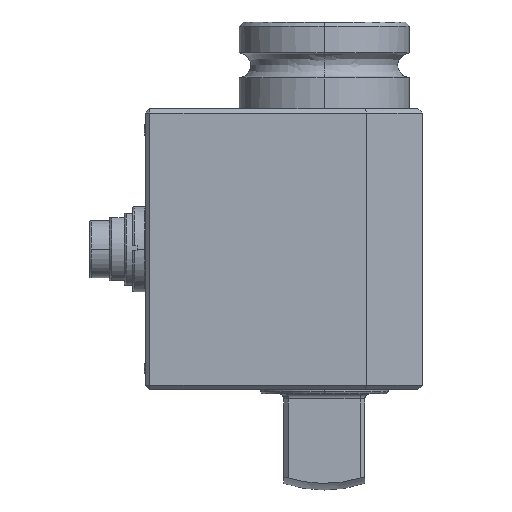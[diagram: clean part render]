
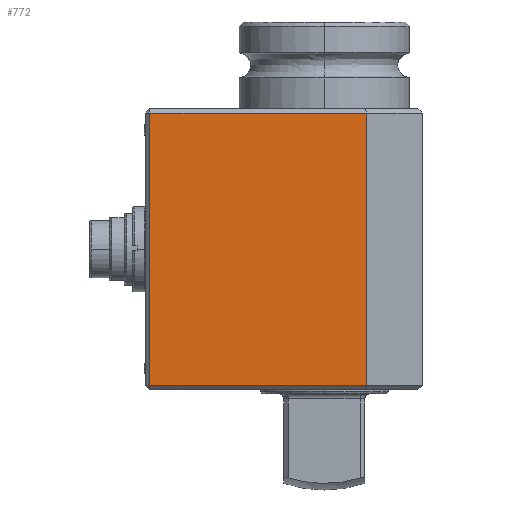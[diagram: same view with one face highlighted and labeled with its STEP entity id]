
A CAD part, left-side view. The second image highlights one B-rep face of the part: STEP entity #772.
In plain terms, the highlighted planar face has unit normal (-1, 0, 0).
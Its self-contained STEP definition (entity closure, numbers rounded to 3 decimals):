
#701 = ORIENTED_EDGE ( 'NONE', *, *, #702, .F. ) ;
#702 = EDGE_CURVE ( 'NONE', #703, #776, #3560, .T. ) ;
#703 = VERTEX_POINT ( 'NONE', #3556 ) ;
#704 = ORIENTED_EDGE ( 'NONE', *, *, #705, .F. ) ;
#705 = EDGE_CURVE ( 'NONE', #896, #703, #3555, .T. ) ;
#759 = ORIENTED_EDGE ( 'NONE', *, *, #902, .F. ) ;
#772 = ADVANCED_FACE ( 'NONE', ( #4150 ), #4149, .F. ) ;
#773 = EDGE_LOOP ( 'NONE', ( #774, #701, #704, #759 ) ) ;
#774 = ORIENTED_EDGE ( 'NONE', *, *, #775, .F. ) ;
#775 = EDGE_CURVE ( 'NONE', #776, #900, #4147, .T. ) ;
#776 = VERTEX_POINT ( 'NONE', #4204 ) ;
#896 = VERTEX_POINT ( 'NONE', #5264 ) ;
#900 = VERTEX_POINT ( 'NONE', #5259 ) ;
#902 = EDGE_CURVE ( 'NONE', #900, #896, #5258, .T. ) ;
#3552 = DIRECTION ( 'NONE',  ( 0., -1., 0. ) ) ;
#3553 = VECTOR ( 'NONE', #3552, 1000. ) ;
#3554 = CARTESIAN_POINT ( 'NONE',  ( -28.752, 39.995, 65. ) ) ;
#3555 = LINE ( 'NONE', #3554, #3553 ) ;
#3556 = CARTESIAN_POINT ( 'NONE',  ( -28.752, 4.995, 65. ) ) ;
#3557 = DIRECTION ( 'NONE',  ( 0., 0., -1. ) ) ;
#3558 = VECTOR ( 'NONE', #3557, 1000. ) ;
#3559 = CARTESIAN_POINT ( 'NONE',  ( -28.752, 4.995, 66. ) ) ;
#3560 = LINE ( 'NONE', #3559, #3558 ) ;
#4144 = DIRECTION ( 'NONE',  ( 0., 1., 0. ) ) ;
#4145 = DIRECTION ( 'NONE',  ( 1., 0., 0. ) ) ;
#4146 = CARTESIAN_POINT ( 'NONE',  ( -28.752, 39.995, 0. ) ) ;
#4147 = LINE ( 'NONE', #4210, #4207 ) ;
#4148 = AXIS2_PLACEMENT_3D ( 'NONE', #4146, #4145, #4144 ) ;
#4149 = PLANE ( 'NONE',  #4148 ) ;
#4150 = FACE_OUTER_BOUND ( 'NONE', #773, .T. ) ;
#4204 = CARTESIAN_POINT ( 'NONE',  ( -28.752, 4.995, 1. ) ) ;
#4205 = DIRECTION ( 'NONE',  ( 0., 1., 0. ) ) ;
#4207 = VECTOR ( 'NONE', #4205, 1000. ) ;
#4210 = CARTESIAN_POINT ( 'NONE',  ( -28.752, 39.995, 1. ) ) ;
#5255 = DIRECTION ( 'NONE',  ( 0., 0., 1. ) ) ;
#5256 = VECTOR ( 'NONE', #5255, 1000. ) ;
#5257 = CARTESIAN_POINT ( 'NONE',  ( -28.752, 55.995, 0. ) ) ;
#5258 = LINE ( 'NONE', #5257, #5256 ) ;
#5259 = CARTESIAN_POINT ( 'NONE',  ( -28.752, 55.995, 1. ) ) ;
#5264 = CARTESIAN_POINT ( 'NONE',  ( -28.752, 55.995, 65. ) ) ;
